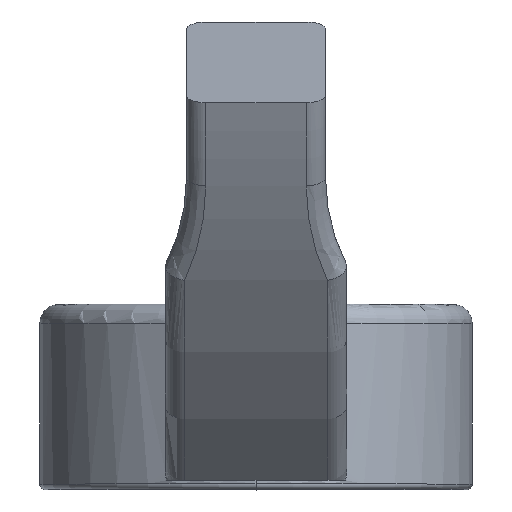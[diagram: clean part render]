
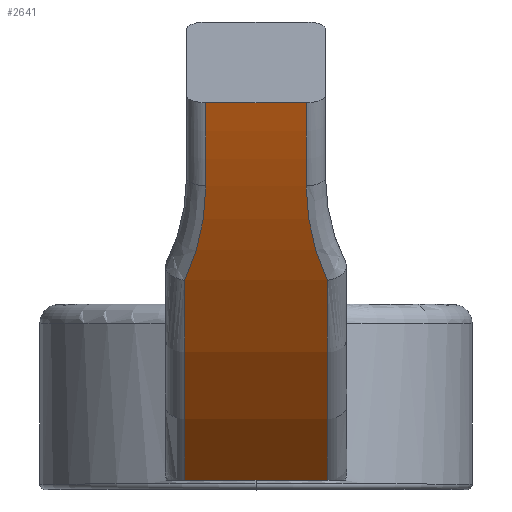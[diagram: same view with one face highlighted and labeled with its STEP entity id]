
A CAD part, top view. The second image highlights one B-rep face of the part: STEP entity #2641.
In plain terms, the highlighted cylindrical face has radius 26 mm (diameter 52 mm), a partial arc.
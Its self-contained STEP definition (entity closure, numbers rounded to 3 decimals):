
#13 = CARTESIAN_POINT ( 'NONE',  ( 1.3, 7.846, 11.685 ) ) ;
#121 = DIRECTION ( 'NONE',  ( -1., 0., 0. ) ) ;
#360 = EDGE_CURVE ( 'NONE', #3064, #3297, #4037, .T. ) ;
#409 = CARTESIAN_POINT ( 'NONE',  ( 1.3, 7.41, 11.455 ) ) ;
#485 = DIRECTION ( 'NONE',  ( 0., 0., -1. ) ) ;
#493 = CARTESIAN_POINT ( 'NONE',  ( 1.3, 7.846, 11.685 ) ) ;
#513 = DIRECTION ( 'NONE',  ( 0., 0., 1. ) ) ;
#626 = CARTESIAN_POINT ( 'NONE',  ( -1.3, 7.41, 11.454 ) ) ;
#745 = VERTEX_POINT ( 'NONE', #3474 ) ;
#768 = CARTESIAN_POINT ( 'NONE',  ( -1.85, 0.238, 5.6 ) ) ;
#784 = ORIENTED_EDGE ( 'NONE', *, *, #360, .T. ) ;
#808 = CARTESIAN_POINT ( 'NONE',  ( -1.85, 5.402, 10.216 ) ) ;
#835 = B_SPLINE_CURVE_WITH_KNOTS ( 'NONE', 3,
 ( #3595, #626, #2666, #3413, #2768, #808 ),
 .UNSPECIFIED., .F., .F.,
 ( 4, 2, 4 ),
 ( 0., 0.001, 0.003 ),
 .UNSPECIFIED. ) ;
#843 = VECTOR ( 'NONE', #874, 1000. ) ;
#874 = DIRECTION ( 'NONE',  ( -1., 0., 0. ) ) ;
#981 = ORIENTED_EDGE ( 'NONE', *, *, #3824, .T. ) ;
#1021 = ORIENTED_EDGE ( 'NONE', *, *, #1987, .T. ) ;
#1059 = VECTOR ( 'NONE', #121, 1000. ) ;
#1066 = LINE ( 'NONE', #1487, #1059 ) ;
#1086 = EDGE_CURVE ( 'NONE', #745, #3576, #1066, .T. ) ;
#1175 = DIRECTION ( 'NONE',  ( -1., 0., 0. ) ) ;
#1194 = CARTESIAN_POINT ( 'NONE',  ( 2.35, 19.994, -11.302 ) ) ;
#1206 = EDGE_CURVE ( 'NONE', #1556, #3496, #3278, .T. ) ;
#1256 = CYLINDRICAL_SURFACE ( 'NONE', #3052, 26. ) ;
#1271 = AXIS2_PLACEMENT_3D ( 'NONE', #3056, #2753, #485 ) ;
#1330 = AXIS2_PLACEMENT_3D ( 'NONE', #4262, #2896, #1680 ) ;
#1338 = DIRECTION ( 'NONE',  ( 0., 0., -1. ) ) ;
#1411 = AXIS2_PLACEMENT_3D ( 'NONE', #3570, #1571, #3509 ) ;
#1463 = EDGE_CURVE ( 'NONE', #3576, #3496, #4170, .T. ) ;
#1468 = ORIENTED_EDGE ( 'NONE', *, *, #3762, .T. ) ;
#1487 = CARTESIAN_POINT ( 'NONE',  ( 2.35, 0.238, 5.6 ) ) ;
#1556 = VERTEX_POINT ( 'NONE', #2712 ) ;
#1571 = DIRECTION ( 'NONE',  ( 1., 0., 0. ) ) ;
#1603 = CARTESIAN_POINT ( 'NONE',  ( 0., 0.238, 5.6 ) ) ;
#1652 = VERTEX_POINT ( 'NONE', #3700 ) ;
#1680 = DIRECTION ( 'NONE',  ( 0., 0., 1. ) ) ;
#1772 = ORIENTED_EDGE ( 'NONE', *, *, #1463, .F. ) ;
#1810 = FACE_OUTER_BOUND ( 'NONE', #3285, .T. ) ;
#1814 = ORIENTED_EDGE ( 'NONE', *, *, #3456, .T. ) ;
#1832 = CARTESIAN_POINT ( 'NONE',  ( 1.534, 6.175, 10.726 ) ) ;
#1880 = VERTEX_POINT ( 'NONE', #2539 ) ;
#1987 = EDGE_CURVE ( 'NONE', #1652, #1880, #4087, .T. ) ;
#2251 = CARTESIAN_POINT ( 'NONE',  ( 2.35, 0.238, 5.6 ) ) ;
#2324 = CARTESIAN_POINT ( 'NONE',  ( 1.3, 10., 12.7 ) ) ;
#2348 = CIRCLE ( 'NONE', #3308, 26. ) ;
#2355 = VECTOR ( 'NONE', #4148, 1000. ) ;
#2419 = CARTESIAN_POINT ( 'NONE',  ( 1.67, 5.781, 10.474 ) ) ;
#2539 = CARTESIAN_POINT ( 'NONE',  ( -1.3, 7.846, 11.685 ) ) ;
#2641 = ADVANCED_FACE ( 'NONE', ( #1810 ), #1256, .T. ) ;
#2646 = VERTEX_POINT ( 'NONE', #3202 ) ;
#2666 = CARTESIAN_POINT ( 'NONE',  ( -1.349, 6.989, 11.216 ) ) ;
#2712 = CARTESIAN_POINT ( 'NONE',  ( -1.85, 5.402, 10.216 ) ) ;
#2717 = DIRECTION ( 'NONE',  ( -1., 0., 0. ) ) ;
#2732 = B_SPLINE_CURVE_WITH_KNOTS ( 'NONE', 3,
 ( #3105, #2419, #1832, #3469, #409, #493 ),
 .UNSPECIFIED., .F., .F.,
 ( 4, 2, 4 ),
 ( 0., 0.001, 0.003 ),
 .UNSPECIFIED. ) ;
#2753 = DIRECTION ( 'NONE',  ( -1., 0., 0. ) ) ;
#2757 = ORIENTED_EDGE ( 'NONE', *, *, #1206, .T. ) ;
#2768 = CARTESIAN_POINT ( 'NONE',  ( -1.67, 5.782, 10.474 ) ) ;
#2896 = DIRECTION ( 'NONE',  ( 1., 0., 0. ) ) ;
#3052 = AXIS2_PLACEMENT_3D ( 'NONE', #1194, #1175, #513 ) ;
#3056 = CARTESIAN_POINT ( 'NONE',  ( 1.3, 19.994, -11.302 ) ) ;
#3064 = VERTEX_POINT ( 'NONE', #13 ) ;
#3105 = CARTESIAN_POINT ( 'NONE',  ( 1.85, 5.402, 10.216 ) ) ;
#3133 = CARTESIAN_POINT ( 'NONE',  ( 2.35, 10., 12.7 ) ) ;
#3202 = CARTESIAN_POINT ( 'NONE',  ( 1.85, 5.402, 10.216 ) ) ;
#3278 = CIRCLE ( 'NONE', #1411, 26. ) ;
#3285 = EDGE_LOOP ( 'NONE', ( #3663, #2757, #1772, #3554, #1468, #981, #784, #1814, #1021 ) ) ;
#3297 = VERTEX_POINT ( 'NONE', #2324 ) ;
#3301 = CARTESIAN_POINT ( 'NONE',  ( 1.85, 19.994, -11.302 ) ) ;
#3308 = AXIS2_PLACEMENT_3D ( 'NONE', #3301, #2717, #1338 ) ;
#3373 = EDGE_CURVE ( 'NONE', #1880, #1556, #835, .T. ) ;
#3413 = CARTESIAN_POINT ( 'NONE',  ( -1.534, 6.175, 10.726 ) ) ;
#3456 = EDGE_CURVE ( 'NONE', #3297, #1652, #3737, .T. ) ;
#3469 = CARTESIAN_POINT ( 'NONE',  ( 1.349, 6.989, 11.216 ) ) ;
#3474 = CARTESIAN_POINT ( 'NONE',  ( 1.85, 0.238, 5.6 ) ) ;
#3496 = VERTEX_POINT ( 'NONE', #768 ) ;
#3509 = DIRECTION ( 'NONE',  ( 0., 0., -1. ) ) ;
#3554 = ORIENTED_EDGE ( 'NONE', *, *, #1086, .F. ) ;
#3570 = CARTESIAN_POINT ( 'NONE',  ( -1.85, 19.994, -11.302 ) ) ;
#3576 = VERTEX_POINT ( 'NONE', #1603 ) ;
#3595 = CARTESIAN_POINT ( 'NONE',  ( -1.3, 7.846, 11.685 ) ) ;
#3663 = ORIENTED_EDGE ( 'NONE', *, *, #3373, .T. ) ;
#3700 = CARTESIAN_POINT ( 'NONE',  ( -1.3, 10., 12.7 ) ) ;
#3737 = LINE ( 'NONE', #3133, #2355 ) ;
#3762 = EDGE_CURVE ( 'NONE', #745, #2646, #2348, .T. ) ;
#3824 = EDGE_CURVE ( 'NONE', #2646, #3064, #2732, .T. ) ;
#4037 = CIRCLE ( 'NONE', #1271, 26. ) ;
#4087 = CIRCLE ( 'NONE', #1330, 26. ) ;
#4148 = DIRECTION ( 'NONE',  ( -1., 0., 0. ) ) ;
#4170 = LINE ( 'NONE', #2251, #843 ) ;
#4262 = CARTESIAN_POINT ( 'NONE',  ( -1.3, 19.994, -11.302 ) ) ;
